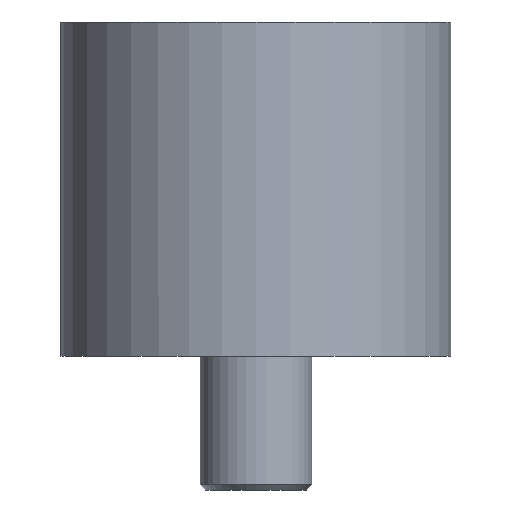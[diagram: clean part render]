
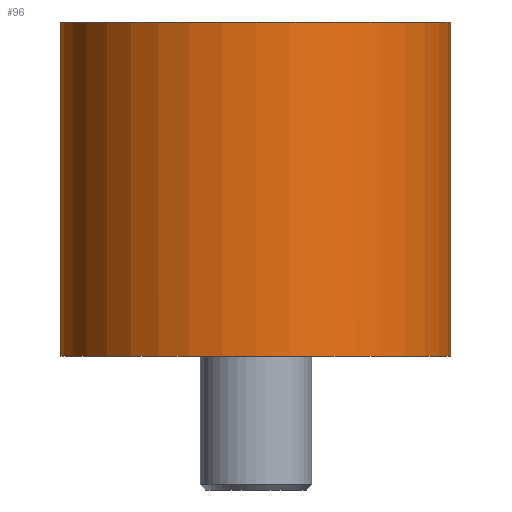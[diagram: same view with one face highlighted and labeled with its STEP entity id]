
A CAD part, front view. The second image highlights one B-rep face of the part: STEP entity #96.
In plain terms, the highlighted cylindrical face has radius 17.5 mm (diameter 35 mm), a partial arc.
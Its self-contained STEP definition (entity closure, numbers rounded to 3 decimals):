
#41 = EDGE_LOOP ( 'NONE', ( #112, #772, #756, #306 ) ) ;
#64 = AXIS2_PLACEMENT_3D ( 'NONE', #590, #424, #676 ) ;
#96 = ADVANCED_FACE ( 'NONE', ( #889 ), #129, .T. ) ;
#104 = VECTOR ( 'NONE', #781, 1000. ) ;
#112 = ORIENTED_EDGE ( 'NONE', *, *, #410, .F. ) ;
#118 = DIRECTION ( 'NONE',  ( 0., 0., -1. ) ) ;
#129 = CYLINDRICAL_SURFACE ( 'NONE', #64, 17.5 ) ;
#159 = EDGE_CURVE ( 'NONE', #172, #459, #963, .T. ) ;
#172 = VERTEX_POINT ( 'NONE', #847 ) ;
#223 = CARTESIAN_POINT ( 'NONE',  ( -17.5, 0., 15. ) ) ;
#243 = AXIS2_PLACEMENT_3D ( 'NONE', #386, #906, #653 ) ;
#277 = CARTESIAN_POINT ( 'NONE',  ( 17.5, 0., 15. ) ) ;
#290 = CARTESIAN_POINT ( 'NONE',  ( 0., 0., 0. ) ) ;
#291 = DIRECTION ( 'NONE',  ( 1., 0., 0. ) ) ;
#304 = VECTOR ( 'NONE', #1068, 1000. ) ;
#306 = ORIENTED_EDGE ( 'NONE', *, *, #159, .F. ) ;
#316 = EDGE_CURVE ( 'NONE', #545, #922, #617, .T. ) ;
#386 = CARTESIAN_POINT ( 'NONE',  ( 0., 0., 30. ) ) ;
#410 = EDGE_CURVE ( 'NONE', #922, #172, #638, .T. ) ;
#424 = DIRECTION ( 'NONE',  ( 0., 0., 1. ) ) ;
#459 = VERTEX_POINT ( 'NONE', #742 ) ;
#545 = VERTEX_POINT ( 'NONE', #627 ) ;
#590 = CARTESIAN_POINT ( 'NONE',  ( 0., 0., 15. ) ) ;
#617 = CIRCLE ( 'NONE', #958, 17.5 ) ;
#627 = CARTESIAN_POINT ( 'NONE',  ( 17.5, 0., 0. ) ) ;
#638 = LINE ( 'NONE', #223, #304 ) ;
#653 = DIRECTION ( 'NONE',  ( 1., 0., 0. ) ) ;
#658 = EDGE_CURVE ( 'NONE', #545, #459, #1092, .T. ) ;
#676 = DIRECTION ( 'NONE',  ( 1., 0., 0. ) ) ;
#742 = CARTESIAN_POINT ( 'NONE',  ( 17.5, 0., 30. ) ) ;
#756 = ORIENTED_EDGE ( 'NONE', *, *, #658, .T. ) ;
#772 = ORIENTED_EDGE ( 'NONE', *, *, #316, .F. ) ;
#781 = DIRECTION ( 'NONE',  ( 0., 0., 1. ) ) ;
#847 = CARTESIAN_POINT ( 'NONE',  ( -17.5, 0., 30. ) ) ;
#873 = CARTESIAN_POINT ( 'NONE',  ( -17.5, 0., 0. ) ) ;
#889 = FACE_OUTER_BOUND ( 'NONE', #41, .T. ) ;
#906 = DIRECTION ( 'NONE',  ( 0., 0., 1. ) ) ;
#922 = VERTEX_POINT ( 'NONE', #873 ) ;
#958 = AXIS2_PLACEMENT_3D ( 'NONE', #290, #118, #291 ) ;
#963 = CIRCLE ( 'NONE', #243, 17.5 ) ;
#1068 = DIRECTION ( 'NONE',  ( 0., 0., 1. ) ) ;
#1092 = LINE ( 'NONE', #277, #104 ) ;
